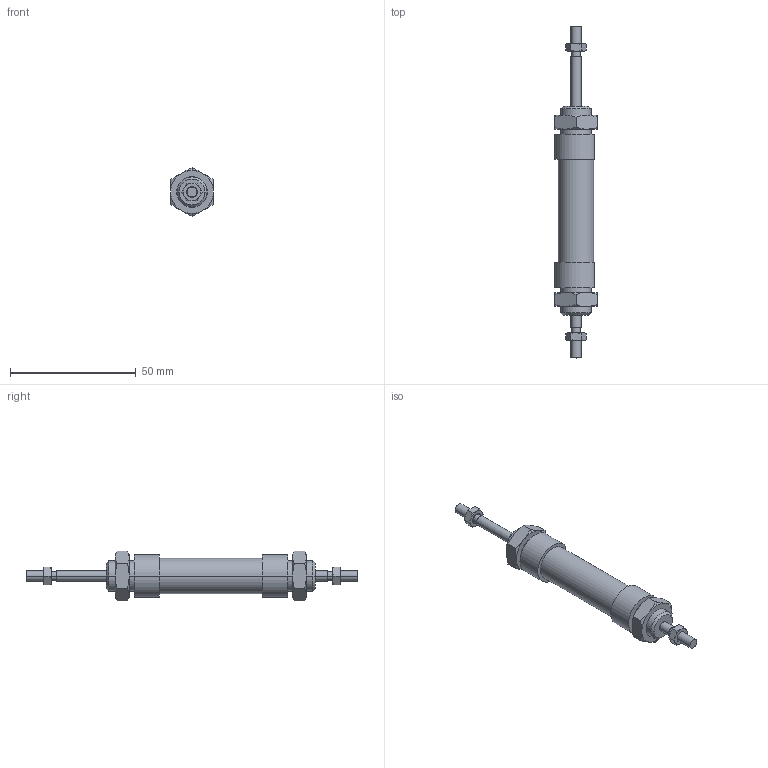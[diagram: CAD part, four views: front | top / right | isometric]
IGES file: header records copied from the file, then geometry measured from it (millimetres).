
Global section: file name: No Iges File Name specified; native system: AutoDesk Inventor R6.0; preprocessor: AutoDesk Inventor Iges Exporter R6.0; author: No Author specified; organization: No Organization specified; date: 20030403.071926; units: millimetre
Bounding box: 17 x 132 x 19.63 mm (x, y, z)
Volume: 15516.4 mm3; surface area: 8938.7 mm2
Topology: 6 solids, 6 shells, 170 faces, 356 edges, 208 vertices
Faces by surface type: cone 68, plane 46, bspline 30, cylinder 20, revolution 6
